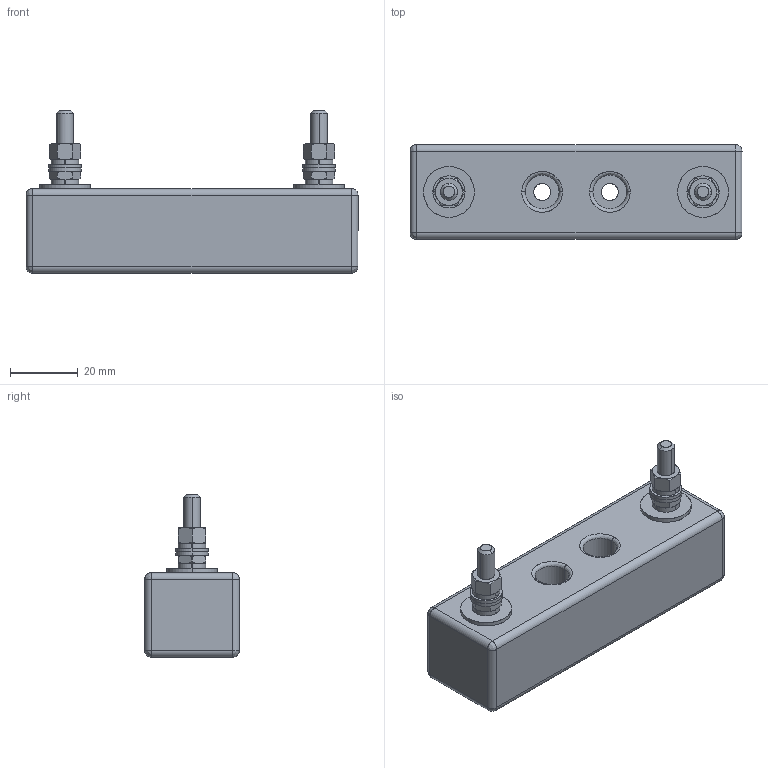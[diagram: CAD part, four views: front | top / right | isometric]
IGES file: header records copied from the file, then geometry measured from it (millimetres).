
Start section: SolidWorks IGES file using analytic representation for surfaces
Global section: file name: U:\14_RD\05_Technical_office\04_Office\Hrdinova\3D modely - IGES\Varius - Ostatní\SP40K06.IGS; native system: SolidWorks 2011; preprocessor: SolidWorks 2011; author: adhrja3; date: 170620.141312; units: millimetre
Bounding box: 98 x 28 x 48 mm (x, y, z)
Surface area: 17826.3 mm2 (no closed solid volume)
Topology: 0 solids, 0 shells, 328 faces, 3906 edges, 3898 vertices
Faces by surface type: revolution 174, bspline 154
